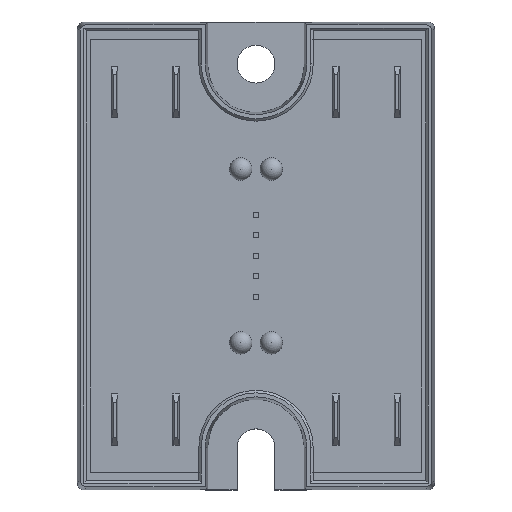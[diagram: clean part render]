
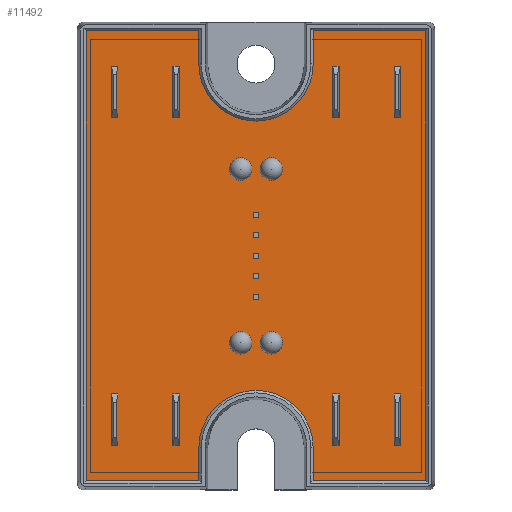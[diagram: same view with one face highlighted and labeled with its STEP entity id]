
A CAD part, top view. The second image highlights one B-rep face of the part: STEP entity #11492.
In plain terms, the highlighted planar face has unit normal (0, 0, 1).
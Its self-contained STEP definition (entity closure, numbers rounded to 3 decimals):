
#288=CIRCLE('',#12330,7.094);
#290=CIRCLE('',#12338,7.094);
#1084=FACE_OUTER_BOUND('',#1778,.T.);
#1778=EDGE_LOOP('',(#10327,#10328,#10329,#10330,#10331,#10332,#10333,#10334,
#10335,#10336,#10337,#10338));
#3135=LINE('',#18540,#4521);
#3140=LINE('',#18553,#4526);
#3143=LINE('',#18559,#4529);
#3146=LINE('',#18565,#4532);
#3149=LINE('',#18571,#4535);
#3152=LINE('',#18577,#4538);
#3156=LINE('',#18589,#4542);
#3159=LINE('',#18595,#4545);
#3162=LINE('',#18601,#4548);
#3164=LINE('',#18604,#4550);
#4521=VECTOR('',#15307,4.106);
#4526=VECTOR('',#15320,4.106);
#4529=VECTOR('',#15325,13.963);
#4532=VECTOR('',#15330,55.813);
#4535=VECTOR('',#15335,13.963);
#4538=VECTOR('',#15340,4.106);
#4542=VECTOR('',#15352,4.106);
#4545=VECTOR('',#15357,13.963);
#4548=VECTOR('',#15362,55.813);
#4550=VECTOR('',#15366,13.963);
#5559=VERTEX_POINT('',#18537);
#5560=VERTEX_POINT('',#18539);
#5562=VERTEX_POINT('',#18545);
#5564=VERTEX_POINT('',#18551);
#5566=VERTEX_POINT('',#18557);
#5568=VERTEX_POINT('',#18563);
#5570=VERTEX_POINT('',#18569);
#5572=VERTEX_POINT('',#18575);
#5574=VERTEX_POINT('',#18581);
#5576=VERTEX_POINT('',#18587);
#5578=VERTEX_POINT('',#18593);
#5580=VERTEX_POINT('',#18599);
#7125=EDGE_CURVE('',#5560,#5559,#3135,.T.);
#7129=EDGE_CURVE('',#5559,#5562,#288,.T.);
#7132=EDGE_CURVE('',#5562,#5564,#3140,.T.);
#7135=EDGE_CURVE('',#5564,#5566,#3143,.T.);
#7138=EDGE_CURVE('',#5566,#5568,#3146,.T.);
#7141=EDGE_CURVE('',#5568,#5570,#3149,.T.);
#7144=EDGE_CURVE('',#5570,#5572,#3152,.T.);
#7147=EDGE_CURVE('',#5572,#5574,#290,.T.);
#7150=EDGE_CURVE('',#5574,#5576,#3156,.T.);
#7153=EDGE_CURVE('',#5576,#5578,#3159,.T.);
#7156=EDGE_CURVE('',#5578,#5580,#3162,.T.);
#7158=EDGE_CURVE('',#5580,#5560,#3164,.T.);
#10327=ORIENTED_EDGE('',*,*,#7158,.T.);
#10328=ORIENTED_EDGE('',*,*,#7125,.T.);
#10329=ORIENTED_EDGE('',*,*,#7129,.T.);
#10330=ORIENTED_EDGE('',*,*,#7132,.T.);
#10331=ORIENTED_EDGE('',*,*,#7135,.T.);
#10332=ORIENTED_EDGE('',*,*,#7138,.T.);
#10333=ORIENTED_EDGE('',*,*,#7141,.T.);
#10334=ORIENTED_EDGE('',*,*,#7144,.T.);
#10335=ORIENTED_EDGE('',*,*,#7147,.T.);
#10336=ORIENTED_EDGE('',*,*,#7150,.T.);
#10337=ORIENTED_EDGE('',*,*,#7153,.T.);
#10338=ORIENTED_EDGE('',*,*,#7156,.T.);
#10865=PLANE('',#12344);
#11492=ADVANCED_FACE('',(#1084),#10865,.F.);
#12330=AXIS2_PLACEMENT_3D('',#18547,#15314,#15315);
#12338=AXIS2_PLACEMENT_3D('',#18583,#15346,#15347);
#12344=AXIS2_PLACEMENT_3D('',#18606,#15369,#15370);
#15307=DIRECTION('',(0.,1.,0.));
#15314=DIRECTION('center_axis',(0.,0.,
-1.));
#15315=DIRECTION('ref_axis',(-1.,0.,0.));
#15320=DIRECTION('',(0.,-1.,0.));
#15325=DIRECTION('',(1.,0.,0.));
#15330=DIRECTION('',(0.,1.,0.));
#15335=DIRECTION('',(-1.,0.,0.));
#15340=DIRECTION('',(0.,-1.,0.));
#15346=DIRECTION('center_axis',(0.,0.,
-1.));
#15347=DIRECTION('ref_axis',(1.,0.,0.));
#15352=DIRECTION('',(0.,1.,0.));
#15357=DIRECTION('',(-1.,0.,0.));
#15362=DIRECTION('',(0.,-1.,0.));
#15366=DIRECTION('',(1.,0.,0.));
#15369=DIRECTION('center_axis',(0.,0.,
-1.));
#15370=DIRECTION('ref_axis',(1.,0.,0.));
#18537=CARTESIAN_POINT('',(-7.094,-23.77,8.101));
#18539=CARTESIAN_POINT('',(-7.094,-27.876,8.101));
#18540=CARTESIAN_POINT('',(-7.094,-27.876,8.101));
#18545=CARTESIAN_POINT('',(7.094,-23.77,8.101));
#18547=CARTESIAN_POINT('Origin',(0.,-23.77,8.101));
#18551=CARTESIAN_POINT('',(7.094,-27.876,8.101));
#18553=CARTESIAN_POINT('',(7.094,-23.77,8.101));
#18557=CARTESIAN_POINT('',(21.056,-27.876,8.101));
#18559=CARTESIAN_POINT('',(7.094,-27.876,8.101));
#18563=CARTESIAN_POINT('',(21.056,27.936,8.101));
#18565=CARTESIAN_POINT('',(21.056,-27.876,8.101));
#18569=CARTESIAN_POINT('',(7.094,27.936,8.101));
#18571=CARTESIAN_POINT('',(21.056,27.936,8.101));
#18575=CARTESIAN_POINT('',(7.094,23.83,8.101));
#18577=CARTESIAN_POINT('',(7.094,27.936,8.101));
#18581=CARTESIAN_POINT('',(-7.094,23.83,8.101));
#18583=CARTESIAN_POINT('Origin',(0.,23.83,8.101));
#18587=CARTESIAN_POINT('',(-7.094,27.936,8.101));
#18589=CARTESIAN_POINT('',(-7.094,23.83,8.101));
#18593=CARTESIAN_POINT('',(-21.056,27.936,8.101));
#18595=CARTESIAN_POINT('',(-7.094,27.936,8.101));
#18599=CARTESIAN_POINT('',(-21.056,-27.876,8.101));
#18601=CARTESIAN_POINT('',(-21.056,27.936,8.101));
#18604=CARTESIAN_POINT('',(-21.056,-27.876,8.101));
#18606=CARTESIAN_POINT('Origin',(0.,0.03,
8.101));
